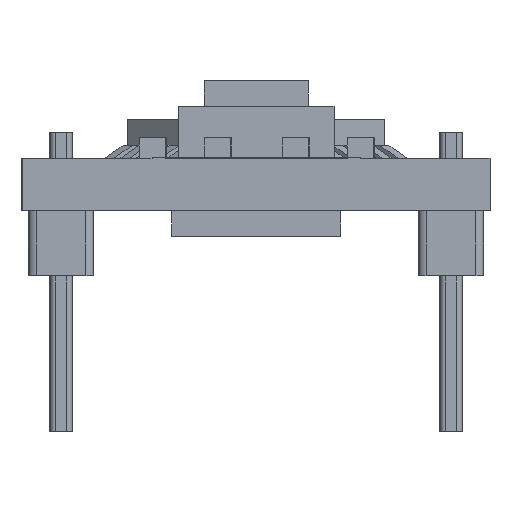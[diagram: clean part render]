
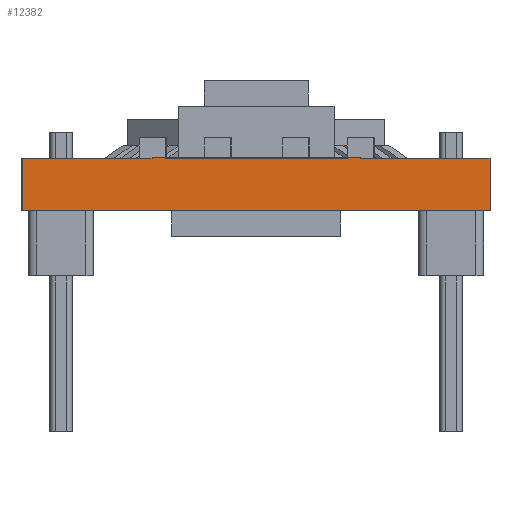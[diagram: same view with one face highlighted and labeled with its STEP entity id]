
A CAD part, left-side view. The second image highlights one B-rep face of the part: STEP entity #12382.
In plain terms, the highlighted planar face has unit normal (-1, 0, 0).
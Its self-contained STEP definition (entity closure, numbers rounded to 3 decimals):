
#173 = CARTESIAN_POINT ( 'NONE',  ( -22., 3.5, 2.05 ) ) ;
#522 = VERTEX_POINT ( 'NONE', #13054 ) ;
#595 = LINE ( 'NONE', #7676, #8582 ) ;
#1670 = LINE ( 'NONE', #7468, #13869 ) ;
#1767 = EDGE_CURVE ( 'NONE', #9475, #8452, #17935, .T. ) ;
#2198 = CARTESIAN_POINT ( 'NONE',  ( -22., 4., 2.05 ) ) ;
#2332 = CARTESIAN_POINT ( 'NONE',  ( -22., -3.5, 2.05 ) ) ;
#2422 = CARTESIAN_POINT ( 'NONE',  ( -22., -3.5, 2.05 ) ) ;
#2958 = LINE ( 'NONE', #11718, #7461 ) ;
#3118 = DIRECTION ( 'NONE',  ( 0., -1., 0. ) ) ;
#3650 = VERTEX_POINT ( 'NONE', #13227 ) ;
#3809 = AXIS2_PLACEMENT_3D ( 'NONE', #9990, #12926, #13118 ) ;
#4204 = EDGE_CURVE ( 'NONE', #10812, #18277, #14339, .T. ) ;
#4475 = VECTOR ( 'NONE', #16848, 1000. ) ;
#4666 = CARTESIAN_POINT ( 'NONE',  ( -22., 9., 0. ) ) ;
#4677 = LINE ( 'NONE', #173, #15280 ) ;
#4979 = ORIENTED_EDGE ( 'NONE', *, *, #11778, .F. ) ;
#5124 = VECTOR ( 'NONE', #12905, 1000. ) ;
#5501 = VECTOR ( 'NONE', #14212, 1000. ) ;
#5508 = VERTEX_POINT ( 'NONE', #11417 ) ;
#5553 = FACE_OUTER_BOUND ( 'NONE', #15045, .T. ) ;
#5633 = LINE ( 'NONE', #2198, #5501 ) ;
#5636 = EDGE_CURVE ( 'NONE', #10812, #19386, #7178, .T. ) ;
#5903 = CARTESIAN_POINT ( 'NONE',  ( -22., 4., 2. ) ) ;
#6033 = ORIENTED_EDGE ( 'NONE', *, *, #11967, .T. ) ;
#6095 = ORIENTED_EDGE ( 'NONE', *, *, #6323, .T. ) ;
#6155 = LINE ( 'NONE', #9020, #12449 ) ;
#6174 = LINE ( 'NONE', #18158, #11380 ) ;
#6323 = EDGE_CURVE ( 'NONE', #5508, #9168, #5633, .T. ) ;
#6363 = VECTOR ( 'NONE', #3118, 1000. ) ;
#6482 = ORIENTED_EDGE ( 'NONE', *, *, #9107, .F. ) ;
#7178 = LINE ( 'NONE', #10697, #6363 ) ;
#7411 = ORIENTED_EDGE ( 'NONE', *, *, #10228, .F. ) ;
#7461 = VECTOR ( 'NONE', #19172, 1000. ) ;
#7468 = CARTESIAN_POINT ( 'NONE',  ( -22., -4., 2.05 ) ) ;
#7536 = DIRECTION ( 'NONE',  ( 0., -1., 0. ) ) ;
#7676 = CARTESIAN_POINT ( 'NONE',  ( -22., 9., 2. ) ) ;
#7908 = ORIENTED_EDGE ( 'NONE', *, *, #9286, .F. ) ;
#7953 = VERTEX_POINT ( 'NONE', #19388 ) ;
#7968 = ORIENTED_EDGE ( 'NONE', *, *, #12935, .F. ) ;
#8332 = PLANE ( 'NONE',  #3809 ) ;
#8452 = VERTEX_POINT ( 'NONE', #14403 ) ;
#8582 = VECTOR ( 'NONE', #13659, 1000. ) ;
#9004 = CARTESIAN_POINT ( 'NONE',  ( -22., 3.5, 2. ) ) ;
#9020 = CARTESIAN_POINT ( 'NONE',  ( -22., 3.5, 2.05 ) ) ;
#9107 = EDGE_CURVE ( 'NONE', #7953, #9168, #2958, .T. ) ;
#9168 = VERTEX_POINT ( 'NONE', #5903 ) ;
#9286 = EDGE_CURVE ( 'NONE', #3650, #13771, #4677, .T. ) ;
#9334 = EDGE_CURVE ( 'NONE', #5508, #3650, #6155, .T. ) ;
#9475 = VERTEX_POINT ( 'NONE', #9514 ) ;
#9514 = CARTESIAN_POINT ( 'NONE',  ( -22., 9., 0. ) ) ;
#9709 = VECTOR ( 'NONE', #17167, 1000. ) ;
#9990 = CARTESIAN_POINT ( 'NONE',  ( -22., 9., 2. ) ) ;
#10207 = DIRECTION ( 'NONE',  ( 0., 0., -1. ) ) ;
#10228 = EDGE_CURVE ( 'NONE', #522, #15189, #595, .T. ) ;
#10685 = DIRECTION ( 'NONE',  ( 0., 0., -1. ) ) ;
#10697 = CARTESIAN_POINT ( 'NONE',  ( -22., -4., 2.05 ) ) ;
#10812 = VERTEX_POINT ( 'NONE', #2332 ) ;
#11380 = VECTOR ( 'NONE', #13449, 1000. ) ;
#11417 = CARTESIAN_POINT ( 'NONE',  ( -22., 4., 2.05 ) ) ;
#11718 = CARTESIAN_POINT ( 'NONE',  ( -22., 9., 2. ) ) ;
#11778 = EDGE_CURVE ( 'NONE', #13771, #18277, #6174, .T. ) ;
#11887 = DIRECTION ( 'NONE',  ( 0., 0., -1. ) ) ;
#11967 = EDGE_CURVE ( 'NONE', #7953, #9475, #19131, .T. ) ;
#12104 = ORIENTED_EDGE ( 'NONE', *, *, #9334, .F. ) ;
#12382 = ADVANCED_FACE ( 'NONE', ( #5553 ), #8332, .F. ) ;
#12421 = CARTESIAN_POINT ( 'NONE',  ( -22., -3.5, 2. ) ) ;
#12449 = VECTOR ( 'NONE', #7536, 1000. ) ;
#12905 = DIRECTION ( 'NONE',  ( 0., 0., -1. ) ) ;
#12926 = DIRECTION ( 'NONE',  ( 1., 0., 0. ) ) ;
#12935 = EDGE_CURVE ( 'NONE', #19386, #522, #1670, .T. ) ;
#13054 = CARTESIAN_POINT ( 'NONE',  ( -22., -4., 2. ) ) ;
#13118 = DIRECTION ( 'NONE',  ( 0., 0., -1. ) ) ;
#13227 = CARTESIAN_POINT ( 'NONE',  ( -22., 3.5, 2.05 ) ) ;
#13449 = DIRECTION ( 'NONE',  ( 0., -1., 0. ) ) ;
#13544 = CARTESIAN_POINT ( 'NONE',  ( -22., -4., 2.05 ) ) ;
#13659 = DIRECTION ( 'NONE',  ( 0., -1., 0. ) ) ;
#13757 = ORIENTED_EDGE ( 'NONE', *, *, #14130, .F. ) ;
#13771 = VERTEX_POINT ( 'NONE', #9004 ) ;
#13852 = ORIENTED_EDGE ( 'NONE', *, *, #4204, .T. ) ;
#13869 = VECTOR ( 'NONE', #11887, 1000. ) ;
#14130 = EDGE_CURVE ( 'NONE', #15189, #8452, #18792, .T. ) ;
#14212 = DIRECTION ( 'NONE',  ( 0., 0., -1. ) ) ;
#14339 = LINE ( 'NONE', #2422, #9709 ) ;
#14403 = CARTESIAN_POINT ( 'NONE',  ( -22., -9., 0. ) ) ;
#14407 = ORIENTED_EDGE ( 'NONE', *, *, #1767, .T. ) ;
#14514 = VECTOR ( 'NONE', #10207, 1000. ) ;
#15045 = EDGE_LOOP ( 'NONE', ( #14407, #13757, #7411, #7968, #18609, #13852, #4979, #7908, #12104, #6095, #6482, #6033 ) ) ;
#15189 = VERTEX_POINT ( 'NONE', #19121 ) ;
#15280 = VECTOR ( 'NONE', #10685, 1000. ) ;
#16848 = DIRECTION ( 'NONE',  ( 0., -1., 0. ) ) ;
#17167 = DIRECTION ( 'NONE',  ( 0., 0., -1. ) ) ;
#17425 = CARTESIAN_POINT ( 'NONE',  ( -22., -9., 2. ) ) ;
#17935 = LINE ( 'NONE', #4666, #4475 ) ;
#18158 = CARTESIAN_POINT ( 'NONE',  ( -22., 9., 2. ) ) ;
#18277 = VERTEX_POINT ( 'NONE', #12421 ) ;
#18609 = ORIENTED_EDGE ( 'NONE', *, *, #5636, .F. ) ;
#18792 = LINE ( 'NONE', #17425, #5124 ) ;
#18942 = CARTESIAN_POINT ( 'NONE',  ( -22., 9., 2. ) ) ;
#19121 = CARTESIAN_POINT ( 'NONE',  ( -22., -9., 2. ) ) ;
#19131 = LINE ( 'NONE', #18942, #14514 ) ;
#19172 = DIRECTION ( 'NONE',  ( 0., -1., 0. ) ) ;
#19386 = VERTEX_POINT ( 'NONE', #13544 ) ;
#19388 = CARTESIAN_POINT ( 'NONE',  ( -22., 9., 2. ) ) ;
